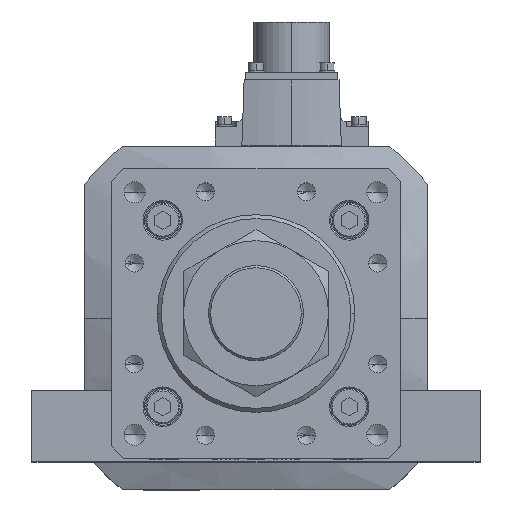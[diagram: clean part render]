
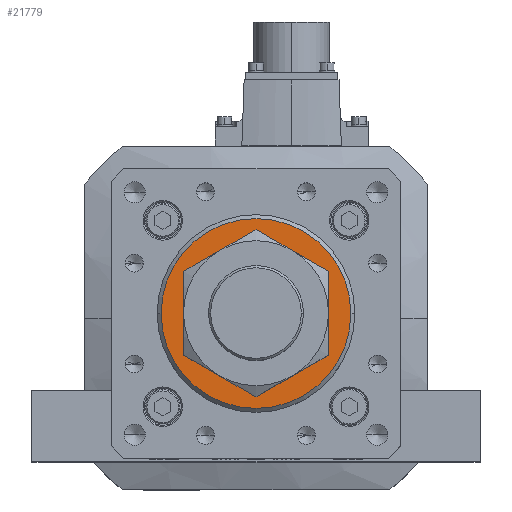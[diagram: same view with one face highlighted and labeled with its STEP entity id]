
A CAD part, top view. The second image highlights one B-rep face of the part: STEP entity #21779.
In plain terms, the highlighted planar face has unit normal (0, 0, 1).
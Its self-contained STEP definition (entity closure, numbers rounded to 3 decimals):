
#43 = VERTEX_POINT ( 'NONE', #25845 ) ;
#809 = EDGE_CURVE ( 'NONE', #16865, #3354, #36600, .T. ) ;
#872 = CARTESIAN_POINT ( 'NONE',  ( 0., 0., 746. ) ) ;
#884 = CIRCLE ( 'NONE', #18060, 36. ) ;
#1222 = EDGE_CURVE ( 'NONE', #16951, #43, #884, .T. ) ;
#1613 = FACE_BOUND ( 'NONE', #38429, .T. ) ;
#2051 = FACE_OUTER_BOUND ( 'NONE', #9320, .T. ) ;
#2199 = ORIENTED_EDGE ( 'NONE', *, *, #809, .T. ) ;
#2405 = CARTESIAN_POINT ( 'NONE',  ( 0., 0., 746. ) ) ;
#3354 = VERTEX_POINT ( 'NONE', #9192 ) ;
#8520 = CIRCLE ( 'NONE', #29609, 23. ) ;
#8696 = PLANE ( 'NONE',  #35064 ) ;
#9192 = CARTESIAN_POINT ( 'NONE',  ( 23., 0., 746. ) ) ;
#9320 = EDGE_LOOP ( 'NONE', ( #34410, #33507 ) ) ;
#9700 = CARTESIAN_POINT ( 'NONE',  ( 0., 0., 746. ) ) ;
#14390 = EDGE_CURVE ( 'NONE', #43, #16951, #31008, .T. ) ;
#15478 = CARTESIAN_POINT ( 'NONE',  ( -23., 0., 746. ) ) ;
#15491 = DIRECTION ( 'NONE',  ( 1., 0., 0. ) ) ;
#16590 = AXIS2_PLACEMENT_3D ( 'NONE', #24472, #29969, #35918 ) ;
#16648 = ORIENTED_EDGE ( 'NONE', *, *, #38067, .T. ) ;
#16865 = VERTEX_POINT ( 'NONE', #15478 ) ;
#16951 = VERTEX_POINT ( 'NONE', #30277 ) ;
#18060 = AXIS2_PLACEMENT_3D ( 'NONE', #18514, #33456, #36566 ) ;
#18514 = CARTESIAN_POINT ( 'NONE',  ( 0., 0., 746. ) ) ;
#20494 = DIRECTION ( 'NONE',  ( 0., 0., 1. ) ) ;
#21498 = DIRECTION ( 'NONE',  ( 0., 0., -1. ) ) ;
#21778 = DIRECTION ( 'NONE',  ( 0., 0., -1. ) ) ;
#21779 = ADVANCED_FACE ( 'NONE', ( #1613, #2051 ), #8696, .T. ) ;
#24472 = CARTESIAN_POINT ( 'NONE',  ( 0., 0., 746. ) ) ;
#24516 = DIRECTION ( 'NONE',  ( 1., 0., 0. ) ) ;
#25019 = AXIS2_PLACEMENT_3D ( 'NONE', #9700, #21498, #24516 ) ;
#25845 = CARTESIAN_POINT ( 'NONE',  ( -36., 0., 746. ) ) ;
#26363 = DIRECTION ( 'NONE',  ( 1., 0., 0. ) ) ;
#29609 = AXIS2_PLACEMENT_3D ( 'NONE', #872, #21778, #15491 ) ;
#29969 = DIRECTION ( 'NONE',  ( 0., 0., 1. ) ) ;
#30277 = CARTESIAN_POINT ( 'NONE',  ( 36., 0., 746. ) ) ;
#31008 = CIRCLE ( 'NONE', #16590, 36. ) ;
#33456 = DIRECTION ( 'NONE',  ( 0., 0., 1. ) ) ;
#33507 = ORIENTED_EDGE ( 'NONE', *, *, #1222, .T. ) ;
#34410 = ORIENTED_EDGE ( 'NONE', *, *, #14390, .T. ) ;
#35064 = AXIS2_PLACEMENT_3D ( 'NONE', #2405, #20494, #26363 ) ;
#35918 = DIRECTION ( 'NONE',  ( 1., 0., 0. ) ) ;
#36566 = DIRECTION ( 'NONE',  ( 1., 0., 0. ) ) ;
#36600 = CIRCLE ( 'NONE', #25019, 23. ) ;
#38067 = EDGE_CURVE ( 'NONE', #3354, #16865, #8520, .T. ) ;
#38429 = EDGE_LOOP ( 'NONE', ( #16648, #2199 ) ) ;
